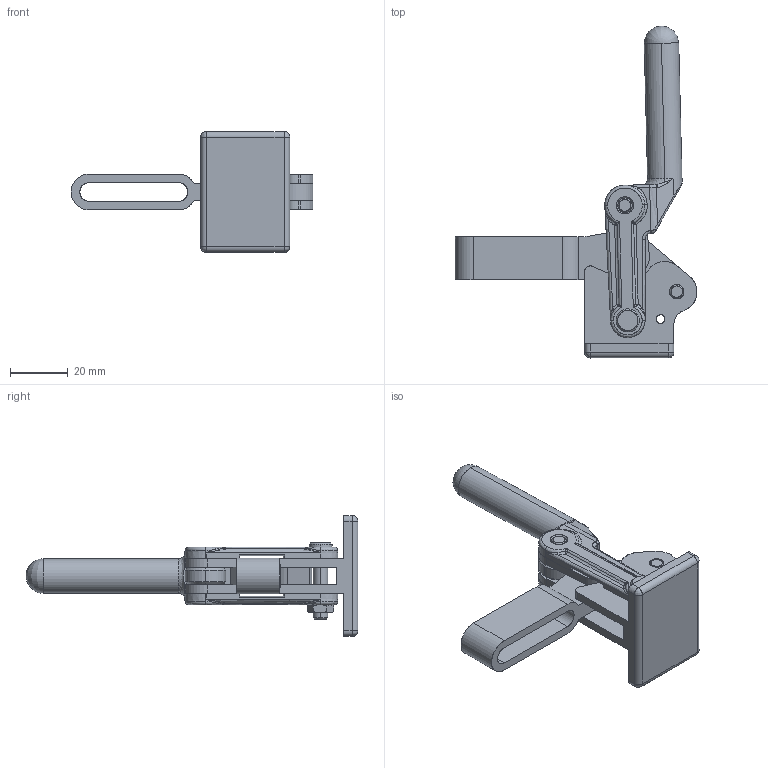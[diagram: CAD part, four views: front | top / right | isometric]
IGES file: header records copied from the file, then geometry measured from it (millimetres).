
Start section: SolidWorks IGES file using analytic representation for surfaces
Global section: file name: D:\GH Files\GH-SW-FILES\GH7\70320,70300B,70300T\70300B\70300B.IGS; native system: SolidWorks 2006 by SolidWorks Corporation; preprocessor: SolidWorks 2006 by SolidWorks Corporation; author: Administrator; date: 060705.130608; units: millimetre
Bounding box: 83.99 x 115.32 x 42 mm (x, y, z)
Surface area: 22649.2 mm2 (no closed solid volume)
Topology: 0 solids, 0 shells, 883 faces, 6687 edges, 6676 vertices
Faces by surface type: bspline 576, revolution 307
